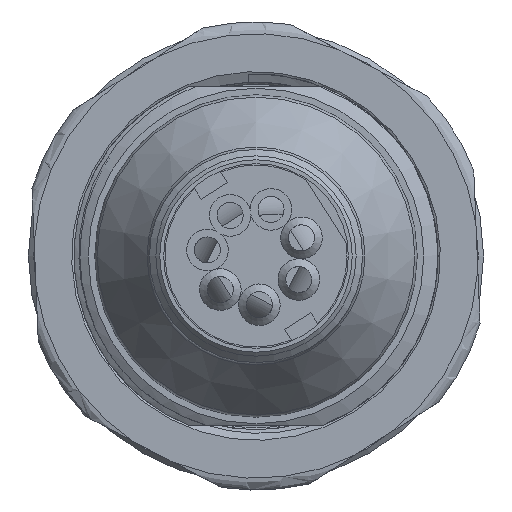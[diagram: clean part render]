
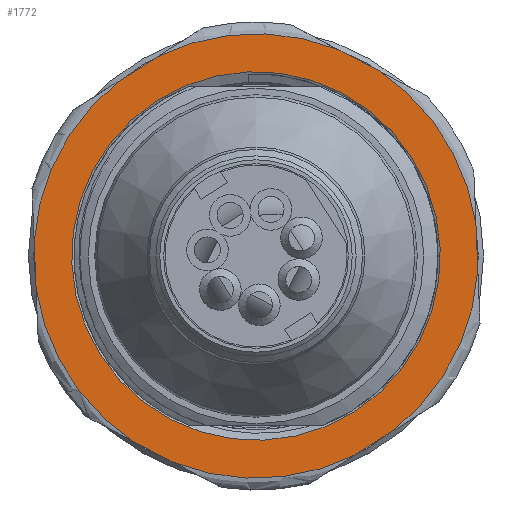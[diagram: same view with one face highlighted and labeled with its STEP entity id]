
A CAD part, left-side view. The second image highlights one B-rep face of the part: STEP entity #1772.
In plain terms, the highlighted planar face has unit normal (-1, 0, 0).
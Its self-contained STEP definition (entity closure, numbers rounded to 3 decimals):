
#589=PLANE('',#6245);
#1132=LINE('',#45122,#1422);
#1133=LINE('',#45127,#1423);
#1134=LINE('',#45131,#1424);
#1135=LINE('',#45135,#1425);
#1136=LINE('',#45139,#1426);
#1137=LINE('',#45143,#1427);
#1422=VECTOR('',#7392,1.);
#1423=VECTOR('',#7395,1.);
#1424=VECTOR('',#7398,1.);
#1425=VECTOR('',#7401,1.);
#1426=VECTOR('',#7404,1.);
#1427=VECTOR('',#7407,1.);
#1772=ADVANCED_FACE('',(#2100,#2101),#589,.T.);
#2100=FACE_BOUND('',#2525,.T.);
#2101=FACE_BOUND('',#2526,.T.);
#2525=EDGE_LOOP('',(#4064));
#2526=EDGE_LOOP('',(#4065,#4066,#4067,#4068,#4069,#4070,#4071,#4072,#4073,
#4074,#4075,#4076));
#4064=ORIENTED_EDGE('',*,*,#5533,.T.);
#4065=ORIENTED_EDGE('',*,*,#5534,.T.);
#4066=ORIENTED_EDGE('',*,*,#5535,.T.);
#4067=ORIENTED_EDGE('',*,*,#5536,.T.);
#4068=ORIENTED_EDGE('',*,*,#5537,.T.);
#4069=ORIENTED_EDGE('',*,*,#5538,.T.);
#4070=ORIENTED_EDGE('',*,*,#5539,.T.);
#4071=ORIENTED_EDGE('',*,*,#5540,.T.);
#4072=ORIENTED_EDGE('',*,*,#5541,.T.);
#4073=ORIENTED_EDGE('',*,*,#5542,.T.);
#4074=ORIENTED_EDGE('',*,*,#5543,.T.);
#4075=ORIENTED_EDGE('',*,*,#5544,.T.);
#4076=ORIENTED_EDGE('',*,*,#5545,.T.);
#4731=VERTEX_POINT('',#45121);
#4732=VERTEX_POINT('',#45123);
#4733=VERTEX_POINT('',#45124);
#4734=VERTEX_POINT('',#45126);
#4735=VERTEX_POINT('',#45128);
#4736=VERTEX_POINT('',#45130);
#4737=VERTEX_POINT('',#45132);
#4738=VERTEX_POINT('',#45134);
#4739=VERTEX_POINT('',#45136);
#4740=VERTEX_POINT('',#45138);
#4741=VERTEX_POINT('',#45140);
#4742=VERTEX_POINT('',#45142);
#4743=VERTEX_POINT('',#45144);
#5533=EDGE_CURVE('',#4731,#4731,#5782,.T.);
#5534=EDGE_CURVE('',#4732,#4733,#1132,.T.);
#5535=EDGE_CURVE('',#4733,#4734,#5783,.T.);
#5536=EDGE_CURVE('',#4734,#4735,#1133,.T.);
#5537=EDGE_CURVE('',#4735,#4736,#5784,.T.);
#5538=EDGE_CURVE('',#4736,#4737,#1134,.T.);
#5539=EDGE_CURVE('',#4737,#4738,#5785,.T.);
#5540=EDGE_CURVE('',#4738,#4739,#1135,.T.);
#5541=EDGE_CURVE('',#4739,#4740,#5786,.T.);
#5542=EDGE_CURVE('',#4740,#4741,#1136,.T.);
#5543=EDGE_CURVE('',#4741,#4742,#5787,.T.);
#5544=EDGE_CURVE('',#4742,#4743,#1137,.T.);
#5545=EDGE_CURVE('',#4743,#4732,#5788,.T.);
#5782=CIRCLE('',#6238,7.087);
#5783=CIRCLE('',#6239,8.547);
#5784=CIRCLE('',#6240,8.547);
#5785=CIRCLE('',#6241,8.547);
#5786=CIRCLE('',#6242,8.547);
#5787=CIRCLE('',#6243,8.547);
#5788=CIRCLE('',#6244,8.547);
#6238=AXIS2_PLACEMENT_3D('',#45120,#7390,#7391);
#6239=AXIS2_PLACEMENT_3D('',#45125,#7393,#7394);
#6240=AXIS2_PLACEMENT_3D('',#45129,#7396,#7397);
#6241=AXIS2_PLACEMENT_3D('',#45133,#7399,#7400);
#6242=AXIS2_PLACEMENT_3D('',#45137,#7402,#7403);
#6243=AXIS2_PLACEMENT_3D('',#45141,#7405,#7406);
#6244=AXIS2_PLACEMENT_3D('',#45145,#7408,#7409);
#6245=AXIS2_PLACEMENT_3D('',#45146,#7410,#7411);
#7390=DIRECTION('',(1.,0.,0.));
#7391=DIRECTION('',(0.,0.041,0.999));
#7392=DIRECTION('',(0.,0.845,-0.535));
#7393=DIRECTION('',(-1.,0.,0.));
#7394=DIRECTION('',(0.,0.041,0.999));
#7395=DIRECTION('',(0.,-0.041,-0.999));
#7396=DIRECTION('',(-1.,0.,0.));
#7397=DIRECTION('',(0.,0.041,0.999));
#7398=DIRECTION('',(0.,-0.886,-0.464));
#7399=DIRECTION('',(-1.,0.,0.));
#7400=DIRECTION('',(0.,0.041,0.999));
#7401=DIRECTION('',(0.,-0.845,0.535));
#7402=DIRECTION('',(-1.,0.,0.));
#7403=DIRECTION('',(0.,0.041,0.999));
#7404=DIRECTION('',(0.,0.041,0.999));
#7405=DIRECTION('',(-1.,0.,0.));
#7406=DIRECTION('',(0.,0.041,0.999));
#7407=DIRECTION('',(0.,0.886,0.464));
#7408=DIRECTION('',(-1.,0.,0.));
#7409=DIRECTION('',(0.,0.041,0.999));
#7410=DIRECTION('',(-1.,0.,0.));
#7411=DIRECTION('',(0.,0.041,0.999));
#45120=CARTESIAN_POINT('',(1.758,-5.392,6.217));
#45121=CARTESIAN_POINT('',(1.758,-5.102,13.298));
#45122=CARTESIAN_POINT('',(1.758,-3.343,14.98));
#45123=CARTESIAN_POINT('',(1.758,-1.6,13.876));
#45124=CARTESIAN_POINT('',(1.758,-0.089,12.919));
#45125=CARTESIAN_POINT('',(1.758,-5.392,6.217));
#45126=CARTESIAN_POINT('',(1.758,3.137,6.762));
#45127=CARTESIAN_POINT('',(1.758,3.222,8.824));
#45128=CARTESIAN_POINT('',(1.758,3.064,4.975));
#45129=CARTESIAN_POINT('',(1.758,-5.392,6.217));
#45130=CARTESIAN_POINT('',(1.758,-0.656,-0.897));
#45131=CARTESIAN_POINT('',(1.758,1.172,0.06));
#45132=CARTESIAN_POINT('',(1.758,-2.24,-1.727));
#45133=CARTESIAN_POINT('',(1.758,-5.392,6.217));
#45134=CARTESIAN_POINT('',(1.758,-9.185,-1.442));
#45135=CARTESIAN_POINT('',(1.758,-7.442,-2.547));
#45136=CARTESIAN_POINT('',(1.758,-10.696,-0.485));
#45137=CARTESIAN_POINT('',(1.758,-5.392,6.217));
#45138=CARTESIAN_POINT('',(1.758,-13.922,5.672));
#45139=CARTESIAN_POINT('',(1.758,-14.006,3.61));
#45140=CARTESIAN_POINT('',(1.758,-13.849,7.459));
#45141=CARTESIAN_POINT('',(1.758,-5.392,6.217));
#45142=CARTESIAN_POINT('',(1.758,-10.129,13.331));
#45143=CARTESIAN_POINT('',(1.758,-11.957,12.373));
#45144=CARTESIAN_POINT('',(1.758,-8.545,14.161));
#45145=CARTESIAN_POINT('',(1.758,-5.392,6.217));
#45146=CARTESIAN_POINT('',(1.758,-5.392,6.217));
